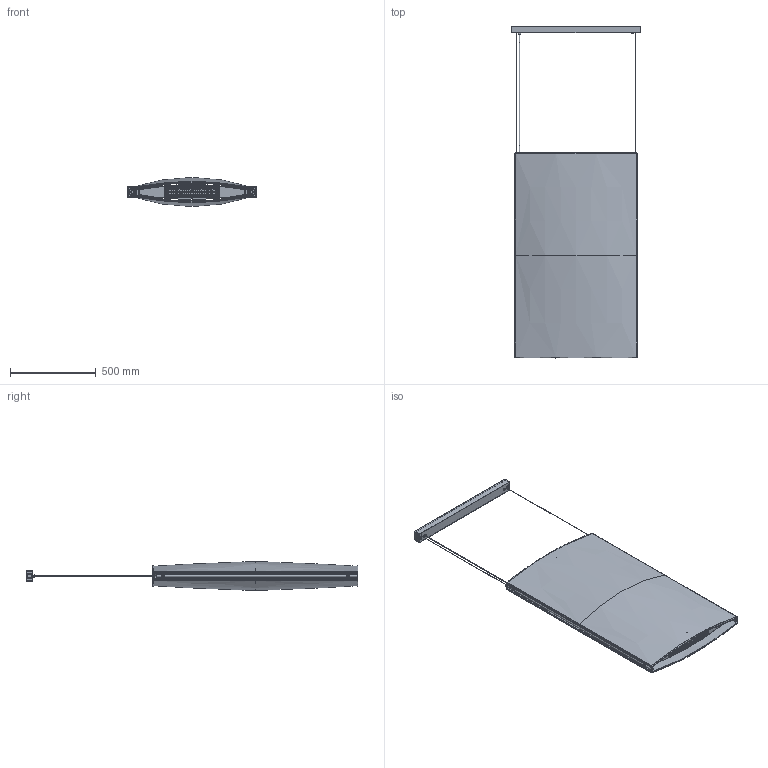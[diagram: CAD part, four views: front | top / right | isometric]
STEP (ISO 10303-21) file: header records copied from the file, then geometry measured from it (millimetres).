
FILE_DESCRIPTION (( 'STEP AP203' ), '1' );
FILE_NAME ('NOREN S-72 DOWN 116012xxyyy.STEP', '2022-08-29T07:43:27', ( '' ), ( '' ), 'SwSTEP 2.0', 'SolidWorks 2019', '' );
FILE_SCHEMA (( 'CONFIG_CONTROL_DESIGN' ));
Length unit declared in the file: millimetre
Products named in the file (34): 000-116-101; 000116-219; 000116-203; 000D7982-3.5X9.5N_M3.5X9.5mm; 000926-3,26A; 000116-151; 000920-007; 000116-273; 000-116-109; 000D965-410N; 000116-234; 000moss10091852; 000116-220; 000-116-304; 000913-030; 000909-101; 000-SUB116-115CH; 000116-232; 000909-099; 000116-SUB TAPA FINAL DRIVERS; 000116-164; 000116-228; 000116-157; 000SUB116-01; 000116-162; 000926-3,2_20A; 000116-204; 000920-003; NOREN S-72 DOWN 116012xxyyy; 906-023 CABLE^NOREN S-72 DOWN 116012xxyyy; 000-918-106; 000D6798J-3.2A2; 000116-231
Assembly tree (68 placements, depth 4):
  NOREN S-72 DOWN 116012xxyyy
    000D7982-3.5X9.5N_M3.5X9.5mm  x4
    000926-3,2_20A  x12
    000D965-410N  x4
    000116-203  x2
    000116-228  x2
    000116-204  x2
    000116-232
    000116-219
    000SUB116-01
      000116-157
      000116-SUB TAPA FINAL DRIVERS
        000116-164
        000116-162
        000D965-410N
      000116-SUB TAPA FINAL DRIVERS
        000116-164
        000116-162
        000D965-410N
      000116-151
      000920-003  x2
      000moss10091852
      000116-219
      000913-030
      000909-101
      000926-3,26A
      000D6798J-3.2A2
      000909-099
    000116-234  x2
    000116-273  x4
    000920-007
    000116-220  x2
    000-SUB116-115CH
      000-116-101
      000-116-109  x2
      000-918-106
      000-116-304
    000116-231
    000moss10091852
    906-023 CABLE^NOREN S-72 DOWN 116012xxyyy  x2
    000913-030
Bounding box: 750 x 1939.75 x 169.63 mm (x, y, z)
Volume: 30577877.6 mm3; surface area: 8757997.8 mm2
Topology: 65 solids, 68 shells, 5979 faces, 15979 edges, 10208 vertices
Faces by surface type: plane 2184, cylinder 2040, bspline 1099, torus 386, cone 152, sphere 118
Full cylindrical faces by diameter (mm): 0.569 x1, 2.8 x1
Entity records: 245192 total; most frequent: CARTESIAN_POINT 153925, ORIENTED_EDGE 20022, DIRECTION 15196, EDGE_CURVE 10011, VERTEX_POINT 6476, VECTOR 5508, LINE 5508, AXIS2_PLACEMENT_3D 4844
